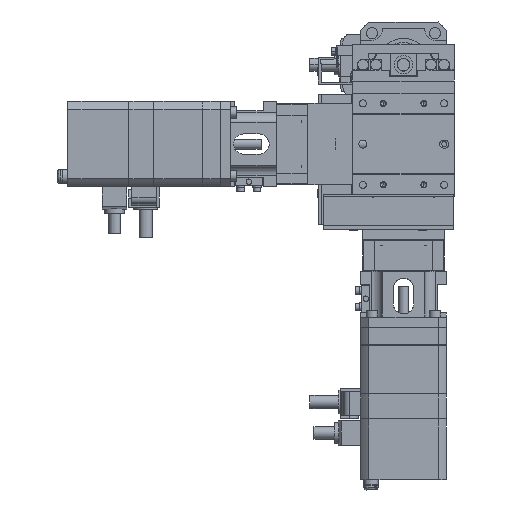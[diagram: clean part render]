
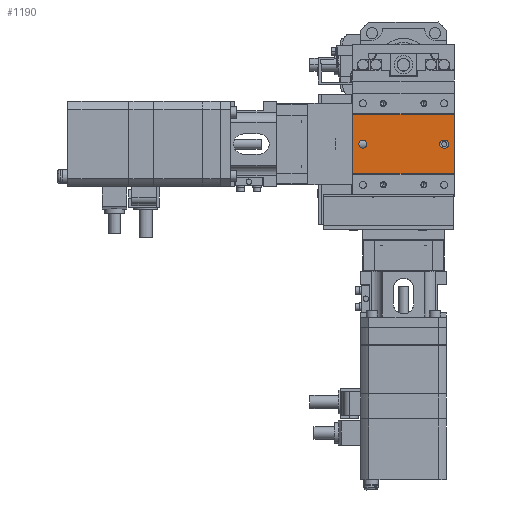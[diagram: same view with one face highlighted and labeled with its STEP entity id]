
A CAD part, front view. The second image highlights one B-rep face of the part: STEP entity #1190.
In plain terms, the highlighted planar face has unit normal (0, -1, 0).
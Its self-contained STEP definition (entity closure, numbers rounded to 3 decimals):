
#1190=ADVANCED_FACE('',(#3733,#3734,#3735),#3736,.F.);
#3733=FACE_BOUND('',#8583,.T.);
#3734=FACE_OUTER_BOUND('',#8584,.T.);
#3735=FACE_BOUND('',#8585,.T.);
#3736=PLANE('',#8586);
#8583=EDGE_LOOP('',(#14902,#14903,#14904,#14905));
#8584=EDGE_LOOP('',(#14906,#14907,#14908,#14909));
#8585=EDGE_LOOP('',(#14910,#14911,#14912));
#8586=AXIS2_PLACEMENT_3D('',#14913,#14914,#14915);
#14902=ORIENTED_EDGE('',*,*,#31736,.F.);
#14903=ORIENTED_EDGE('',*,*,#31737,.F.);
#14904=ORIENTED_EDGE('',*,*,#31738,.F.);
#14905=ORIENTED_EDGE('',*,*,#31739,.F.);
#14906=ORIENTED_EDGE('',*,*,#31721,.T.);
#14907=ORIENTED_EDGE('',*,*,#31740,.F.);
#14908=ORIENTED_EDGE('',*,*,#31741,.F.);
#14909=ORIENTED_EDGE('',*,*,#31742,.T.);
#14910=ORIENTED_EDGE('',*,*,#31626,.F.);
#14911=ORIENTED_EDGE('',*,*,#31625,.F.);
#14912=ORIENTED_EDGE('',*,*,#31743,.F.);
#14913=CARTESIAN_POINT('',(-25.,0.35,-14.65));
#14914=DIRECTION('',(0.,1.0,0.));
#14915=DIRECTION('',(-1.0,0.,0.));
#31625=EDGE_CURVE('',#37680,#37682,#37683,.F.);
#31626=EDGE_CURVE('',#37682,#37676,#37684,.F.);
#31721=EDGE_CURVE('',#37861,#37859,#37862,.T.);
#31736=EDGE_CURVE('',#37889,#37890,#37891,.F.);
#31737=EDGE_CURVE('',#37892,#37889,#37893,.T.);
#31738=EDGE_CURVE('',#37894,#37892,#37895,.F.);
#31739=EDGE_CURVE('',#37890,#37894,#37896,.T.);
#31740=EDGE_CURVE('',#37897,#37859,#37898,.T.);
#31741=EDGE_CURVE('',#37899,#37897,#37900,.T.);
#31742=EDGE_CURVE('',#37899,#37861,#37901,.T.);
#31743=EDGE_CURVE('',#37676,#37680,#37902,.F.);
#37676=VERTEX_POINT('',#47361);
#37680=VERTEX_POINT('',#47366);
#37682=VERTEX_POINT('',#47369);
#37683=CIRCLE('',#47370,2.0);
#37684=CIRCLE('',#47371,2.0);
#37859=VERTEX_POINT('',#47600);
#37861=VERTEX_POINT('',#47603);
#37862=LINE('',#47604,#47605);
#37889=VERTEX_POINT('',#47645);
#37890=VERTEX_POINT('',#47646);
#37891=CIRCLE('',#47647,2.0);
#37892=VERTEX_POINT('',#47648);
#37893=LINE('',#47649,#47650);
#37894=VERTEX_POINT('',#47651);
#37895=CIRCLE('',#47652,2.0);
#37896=LINE('',#47653,#47654);
#37897=VERTEX_POINT('',#47655);
#37898=LINE('',#47656,#47657);
#37899=VERTEX_POINT('',#47658);
#37900=LINE('',#47659,#47660);
#37901=LINE('',#47661,#47662);
#37902=CIRCLE('',#47663,2.0);
#47361=CARTESIAN_POINT('',(-18.0,0.35,0.));
#47366=CARTESIAN_POINT('',(-22.0,0.35,0.));
#47369=CARTESIAN_POINT('',(-20.,0.35,-2.));
#47370=AXIS2_PLACEMENT_3D('',#61125,#61126,#61127);
#47371=AXIS2_PLACEMENT_3D('',#61128,#61129,#61130);
#47600=CARTESIAN_POINT('',(25.,0.35,14.65));
#47603=CARTESIAN_POINT('',(25.,0.35,-14.65));
#47604=CARTESIAN_POINT('',(25.,0.35,-14.65));
#47605=VECTOR('',#61303,1000.0);
#47645=CARTESIAN_POINT('',(20.25,0.35,-2.));
#47646=CARTESIAN_POINT('',(20.25,0.35,2.));
#47647=AXIS2_PLACEMENT_3D('',#61320,#61321,#61322);
#47648=CARTESIAN_POINT('',(19.75,0.35,-2.));
#47649=CARTESIAN_POINT('',(-25.,0.35,-2.));
#47650=VECTOR('',#61323,1000.0);
#47651=CARTESIAN_POINT('',(19.75,0.35,2.));
#47652=AXIS2_PLACEMENT_3D('',#61324,#61325,#61326);
#47653=CARTESIAN_POINT('',(-25.,0.35,2.));
#47654=VECTOR('',#61327,1000.0);
#47655=CARTESIAN_POINT('',(-25.,0.35,14.65));
#47656=CARTESIAN_POINT('',(-25.,0.35,14.65));
#47657=VECTOR('',#61328,1000.0);
#47658=CARTESIAN_POINT('',(-25.,0.35,-14.65));
#47659=CARTESIAN_POINT('',(-25.,0.35,-14.65));
#47660=VECTOR('',#61329,1000.0);
#47661=CARTESIAN_POINT('',(-25.,0.35,-14.65));
#47662=VECTOR('',#61330,1000.0);
#47663=AXIS2_PLACEMENT_3D('',#61331,#61332,#61333);
#61125=CARTESIAN_POINT('',(-20.0,0.35,0.));
#61126=DIRECTION('',(0.,1.0,0.));
#61127=DIRECTION('',(0.,0.,-1.0));
#61128=CARTESIAN_POINT('',(-20.0,0.35,0.));
#61129=DIRECTION('',(0.,1.0,0.));
#61130=DIRECTION('',(0.,0.,-1.0));
#61303=DIRECTION('',(0.,0.,1.0));
#61320=CARTESIAN_POINT('',(20.25,0.35,0.));
#61321=DIRECTION('',(0.,1.0,0.));
#61322=DIRECTION('',(0.,0.,-1.0));
#61323=DIRECTION('',(1.0,0.,0.));
#61324=CARTESIAN_POINT('',(19.75,0.35,0.));
#61325=DIRECTION('',(0.,1.0,0.));
#61326=DIRECTION('',(0.,0.,-1.0));
#61327=DIRECTION('',(-1.0,0.,0.));
#61328=DIRECTION('',(1.0,0.,0.));
#61329=DIRECTION('',(0.,0.,1.0));
#61330=DIRECTION('',(1.0,0.,0.));
#61331=CARTESIAN_POINT('',(-20.0,0.35,0.));
#61332=DIRECTION('',(0.,1.0,0.));
#61333=DIRECTION('',(0.,0.,-1.0));
